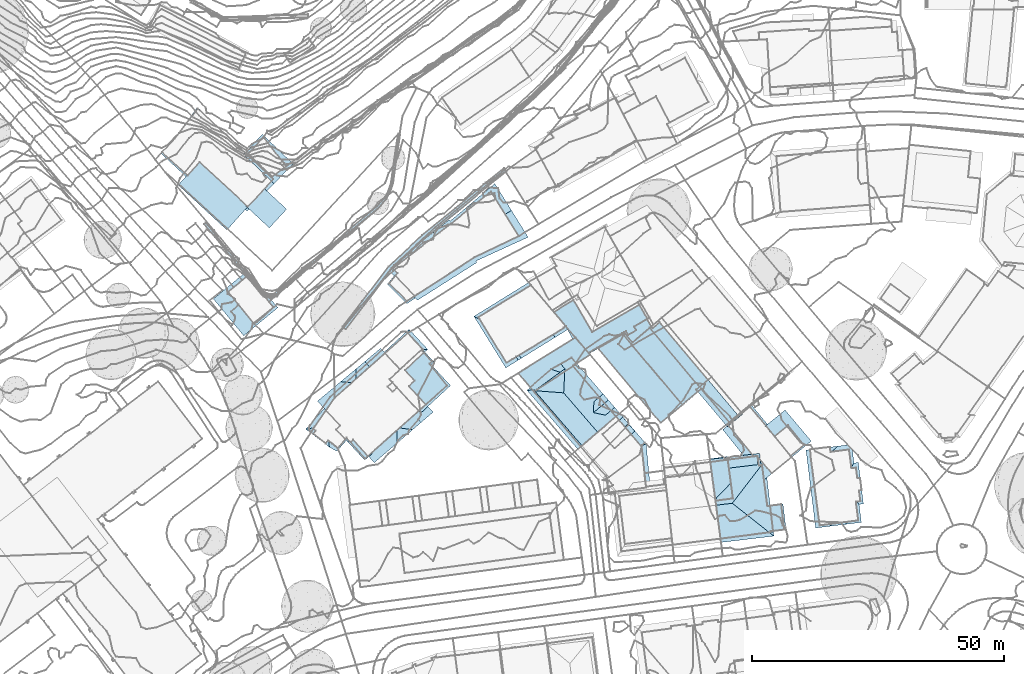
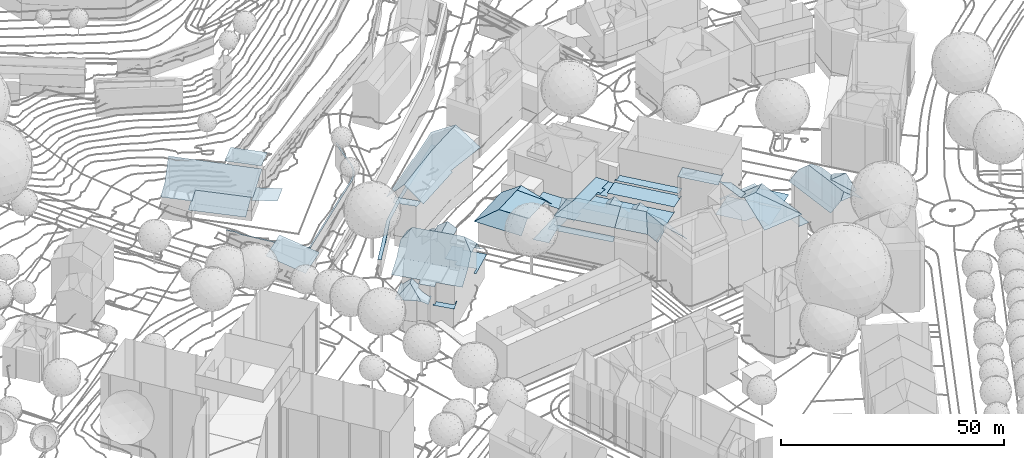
# Not in any storey, part 80 of 477: 27 roofs.
"""IFC4 building model written with IfcOpenShell, lengths in metres."""

from ifc_helpers import new_model, si_unit, frame, origin_with_axes, place, context, subcontext, project, spatial, polygons, element, save


model = new_model("IFC4")

# Units and contexts
model_context = context("Model", 3, precision=1e-05, world=origin_with_axes())
body_context = subcontext(model_context, "Body", "Model", "MODEL_VIEW")
ifc_project = project(units=[si_unit("AREAUNIT", "SQUARE_METRE"), si_unit("LENGTHUNIT", "METRE")], contexts=[model_context])

# Sites, building
site_1_placement = place(None, origin_with_axes())
site_1 = spatial("IfcSite", under=ifc_project, at=site_1_placement, Name="Topoexport Site")
site_2_placement = place(site_1_placement, origin_with_axes())
site_2 = spatial("IfcSite", under=site_1, at=site_2_placement, Name="TPX_BUILDINGS")
building_1_placement = place(site_2_placement, frame((211.8297320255, 101.9383160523, 526.7541), z_axis=(0.0, 0.0, 1.0), x_axis=(1.0, 0.0, 0.0)))
building_1 = spatial("IfcBuilding", under=site_2, at=building_1_placement, Name="Building 18", CompositionType="ELEMENT")

# Roofs
roof_1_placement = place(None, frame((211.8297320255, 101.9383160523, 526.7541), z_axis=(0.0, 0.0, 1.0), x_axis=(1.0, 0.0, 0.0)))
element("IfcRoof", 1, at=roof_1_placement, inside=building_1, Name="Roof 69", context=body_context, shape_type="Tessellation", body=[
    polygons([(230.6209999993, 142.6094000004, -15.6225), (224.5700000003, 149.4979999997, -15.5485), (224.887000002, 149.7558000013, -15.5485), (230.3049999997, 142.3515000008, -15.6225), (223.8020000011, 150.4354999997, -15.1775), (224.1130000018, 150.6992000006, -15.1775), (222.6460000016, 152.3729999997, -15.1775), (222.3390000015, 152.1055000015, -15.1775), (232.3399999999, 140.2138000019, -15.7305), (230.9900000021, 141.8486000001, -15.6525), (230.8289999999, 141.7168000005, -15.6525), (234.381000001, 138.0487999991, -15.8445), (234.2780000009, 137.8662, -15.8445), (235.6790000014, 137.8515000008, -15.6965), (235.8020000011, 137.4208999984, -15.6965), (251.1520000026, 150.495099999, -15.6225), (250.8890000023, 150.807599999, -15.6225), (234.4810000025, 137.620099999, -15.8165), (257.0040000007, 155.3935000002, -15.6225), (256.7200000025, 155.6875, -15.6225), (258.4030000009, 156.9530999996, -15.6225), (258.0700000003, 157.1942999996, -15.6225), (259.2550000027, 158.433600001, -15.6225), (259.8830000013, 160.2391999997, -15.6225), (258.882000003, 158.6044999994, -15.6225), (259.4840000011, 160.3339999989, -15.6225), (259.9620000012, 163.9316000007, -15.6225), (260.3660000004, 163.8740000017, -15.6225), (260.8489999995, 169.8828000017, -15.5485), (261.2530000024, 169.8222000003, -15.5485)], [[[3, 2, 1]], [[4, 1, 2]], [[3, 5, 2]], [[5, 3, 6]], [[5, 6, 7]], [[7, 8, 5]], [[1, 10, 9]], [[11, 10, 4]], [[4, 10, 1]], [[13, 12, 1]], [[13, 1, 9]], [[12, 15, 14]], [[14, 15, 16]], [[16, 17, 14]], [[12, 13, 15]], [[18, 15, 13]], [[20, 16, 19]], [[20, 19, 21]], [[20, 17, 16]], [[22, 20, 21]], [[21, 23, 22]], [[25, 23, 24]], [[23, 25, 22]], [[25, 24, 26]], [[26, 28, 27]], [[28, 26, 24]], [[30, 29, 28]], [[27, 28, 29]]]),
])
roof_2_placement = place(None, frame((211.8297320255, 101.9383160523, 526.7541), z_axis=(0.0, 0.0, 1.0), x_axis=(1.0, 0.0, 0.0)))
element("IfcRoof", 2, at=roof_2_placement, inside=building_1, Name="Roof 72", context=body_context, shape_type="Tessellation", body=[
    polygons([(254.3800000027, 136.2890000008, -20.4351), (250.4350000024, 131.2080000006, -20.3871), (249.8320000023, 131.75, -20.3871), (253.7380000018, 136.7811999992, -20.4351), (258.9550000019, 143.6981999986, -20.2511), (259.5580000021, 143.1543000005, -20.2511), (266.2190000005, 149.3291000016, -20.0661), (265.688000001, 149.9393999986, -20.0661), (272.2770000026, 155.3280999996, -19.7901), (272.7919999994, 154.7050999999, -19.7901), (278.2740000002, 160.3418000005, -19.5142), (278.7850000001, 159.7148000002, -19.5142), (281.9240000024, 163.2490000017, -19.3302), (282.4279999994, 162.6162, -19.3302), (259.5579000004, 143.1543999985, -20.4526), (254.4450000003, 136.375, -20.6331), (254.3801000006, 136.2890000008, -20.6353)], [[[3, 2, 1]], [[1, 4, 3]], [[1, 5, 4]], [[5, 1, 6]], [[7, 5, 6]], [[5, 7, 8]], [[10, 9, 7]], [[8, 7, 9]], [[12, 11, 9]], [[9, 10, 12]], [[14, 13, 12]], [[11, 12, 13]], [[17, 16, 15]]]),
])

# Building
building_2_placement = place(site_2_placement, frame((498.6247320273, 242.5555160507, 500.7935), z_axis=(0.0, 0.0, 1.0), x_axis=(1.0, 0.0, 0.0)))
building_2 = spatial("IfcBuilding", under=site_2, at=building_2_placement, Name="Building 78", CompositionType="ELEMENT")

# Roof
roof_3_placement = place(None, frame((498.6247320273, 242.5555160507, 500.7935), z_axis=(0.0, 0.0, 1.0), x_axis=(1.0, 0.0, 0.0)))
element("IfcRoof", 3, at=roof_3_placement, inside=building_2, Name="Roof 0", context=body_context, shape_type="Tessellation", body=[
    polygons([(23.6420000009, -7.3046999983, 4.7325), (20.9739999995, -8.8408999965, 4.7325), (22.0170000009, -4.4814999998, 4.7325), (19.3709999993, -9.7636999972, 4.7325), (18.6279999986, -10.191399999, 4.7325), (12.6730000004, -9.9433999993, 4.7325), (11.1909999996, -14.7050999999, 4.7325), (18.7349999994, -10.3310999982, 4.7325), (19.8000000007, -10.5088, 4.7325), (21.4030000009, -9.5859999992, 4.7325), (7.4419999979, -8.7841999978, 4.7325), (8.938000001, -3.5546999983, 4.7325), (9.0150000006, -11.8085999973, 4.7325), (7.4820000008, -9.0146999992, 4.7325), (7.3389999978, -8.8456999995, 4.7325), (5.0500000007, -5.9618999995, 4.7325)], [[[3, 2, 1]], [[2, 3, 4]], [[3, 5, 4]], [[6, 5, 3]], [[8, 5, 7]], [[2, 4, 9]], [[2, 9, 10]], [[6, 12, 11]], [[7, 6, 13]], [[6, 7, 5]], [[14, 6, 11]], [[14, 13, 6]], [[11, 15, 14]], [[11, 12, 16]]]),
])

# Building
building_3_placement = place(site_2_placement, frame((509.0277320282, 209.8641160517, 500.1695), z_axis=(0.0, 0.0, 1.0), x_axis=(1.0, 0.0, 0.0)))
building_3 = spatial("IfcBuilding", under=site_2, at=building_3_placement, Name="Building 79", CompositionType="ELEMENT")

# Roof
roof_4_placement = place(None, frame((509.0277320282, 209.8641160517, 500.1695), z_axis=(0.0, 0.0, 1.0), x_axis=(1.0, 0.0, 0.0)))
element("IfcRoof", 4, at=roof_4_placement, inside=building_3, Name="Roof 1", context=body_context, shape_type="Tessellation", body=[
    polygons([(7.5979999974, 5.2714000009, 12.3828), (9.4129999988, 4.5780999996, 13.5887), (6.5099999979, 4.3486000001, 12.3828), (6.6549999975, 2.2382000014, 13.5887), (8.310999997, 5.8769000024, 12.3828), (8.9100000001, 1.5654000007, 12.3828), (9.9829999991, 2.4755000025, 12.3828), (10.6889999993, 3.0742000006, 12.3828), (7.2619999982, -1.7364000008, 15.6195), (0.2079999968, 0.1787, 12.4798), (3.3189999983, 2.8379000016, 15.6195), (5.3200000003, -5.7509999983, 12.4798), (11.9649999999, 0.1523000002, 11.0599), (9.9829999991, 2.4755000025, 11.045), (12.9419999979, 0.5371000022, 10.118), (7.7170000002, 6.5976000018, 10.1181), (9.0709999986, 1.7010999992, 12.1828), (10.492999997, -0.4267999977, 12.4798), (6.993999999, 5.9794999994, 11.022), (7.5979999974, 5.2714000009, 11.027), (6.6710000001, 4.4853000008, 12.1829), (11.300999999, -9.0976999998, 12.4798), (7.9239999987, -8.8359999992, 15.6195), (7.9769999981, -9.4072999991, 15.6195), (13.818, -8.8623000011, 10.118), (5.680999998, -9.621100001, 12.4798), (5.6569999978, -9.3594000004, 12.4798), (5.6359999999, -9.1367999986, 12.4798)], [[[3, 2, 1]], [[2, 3, 4]], [[2, 5, 1]], [[4, 6, 2]], [[2, 6, 7]], [[7, 8, 2]], [[11, 10, 9]], [[12, 9, 10]], [[15, 14, 13]], [[14, 15, 16]], [[13, 14, 17]], [[4, 9, 18]], [[17, 6, 18]], [[18, 13, 17]], [[4, 18, 6]], [[20, 16, 19]], [[16, 20, 14]], [[20, 19, 21]], [[3, 11, 4]], [[3, 21, 19]], [[19, 11, 3]], [[4, 11, 9]], [[23, 22, 9]], [[23, 24, 22]], [[22, 25, 18]], [[18, 25, 13]], [[9, 22, 18]], [[13, 25, 15]], [[24, 27, 26]], [[27, 24, 23]], [[23, 9, 12]], [[12, 28, 23]], [[23, 28, 27]]]),
])

# Building
building_4_placement = place(site_2_placement, frame((512.3577320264, 229.5457160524, 499.1847), z_axis=(0.0, 0.0, 1.0), x_axis=(1.0, 0.0, 0.0)))
building_4 = spatial("IfcBuilding", under=site_2, at=building_4_placement, Name="Building 80", CompositionType="ELEMENT")

# Roofs
roof_5_placement = place(None, frame((512.3577320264, 229.5457160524, 499.1847), z_axis=(0.0, 0.0, 1.0), x_axis=(1.0, 0.0, 0.0)))
element("IfcRoof", 5, at=roof_5_placement, inside=building_4, Name="Roof 1", context=body_context, shape_type="Tessellation", body=[
    polygons([(27.9970000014, -13.6240000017, 13.3336), (28.8060000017, -13.191399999, 13.4926), (25.751000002, -15.7626999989, 12.7847), (28.6840000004, -13.0458999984, 13.4926), (19.8770000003, -8.7890999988, 12.7847), (21.9180000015, -6.4072000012, 13.3336), (19.5500000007, -8.4013999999, 12.7847)], [[[3, 2, 1]], [[1, 2, 4]], [[1, 6, 5]], [[7, 5, 6]], [[1, 5, 3]]]),
])
roof_6_placement = place(None, frame((512.3577320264, 229.5457160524, 499.1847), z_axis=(0.0, 0.0, 1.0), x_axis=(1.0, 0.0, 0.0)))
element("IfcRoof", 6, at=roof_6_placement, inside=building_4, Name="Roof 3", context=body_context, shape_type="Tessellation", body=[
    polygons([(4.8949999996, 2.8183999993, 6.3413), (6.0670000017, 2.5009999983, 6.3413), (6.6160000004, 0.7646999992, 6.3413), (7.6700000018, 3.4237999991, 6.3413), (5.6380000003, 3.246100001, 6.3413), (9.8399999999, 5.6649999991, 6.3413), (10.693, 4.2001999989, 6.3413), (7.2410000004, 4.1689999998, 6.3413)], [[[3, 2, 1]], [[2, 3, 4]], [[5, 1, 2]], [[4, 7, 6]], [[7, 4, 3]], [[6, 8, 4]]]),
])
roof_7_placement = place(None, frame((512.3577320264, 229.5457160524, 499.1847), z_axis=(0.0, 0.0, 1.0), x_axis=(1.0, 0.0, 0.0)))
element("IfcRoof", 7, at=roof_7_placement, inside=building_4, Name="Roof 5", context=body_context, shape_type="Tessellation", body=[
    polygons([(16.8920000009, -11.4365000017, 7.2982), (19.8770000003, -8.7890999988, 7.1012), (20.6429999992, -8.2763999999, 7.0562), (20.5670000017, -8.2060000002, 7.0572), (16.8289999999, -11.3632999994, 7.2982), (19.5500000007, -8.4013999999, 7.1012), (6.6150000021, 0.7637000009, 7.2982), (10.3460000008, 3.9072000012, 7.0583), (20.2410000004, -7.8192999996, 7.0572)], [[[3, 2, 1]], [[2, 3, 4]], [[5, 1, 2]], [[2, 6, 5]], [[6, 8, 7]], [[8, 6, 9]], [[6, 7, 5]]]),
])
roof_8_placement = place(None, frame((512.3577320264, 229.5457160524, 499.1847), z_axis=(0.0, 0.0, 1.0), x_axis=(1.0, 0.0, 0.0)))
element("IfcRoof", 8, at=roof_8_placement, inside=building_4, Name="Roof 7", context=body_context, shape_type="Tessellation", body=[
    polygons([(10.693, 4.1992000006, 7.5842), (10.9149999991, 3.8183999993, 7.5842), (10.3460000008, 3.9072000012, 7.5842), (20.2309999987, -7.8271000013, 7.5842), (21.9180000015, -6.4072000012, 7.5842), (12.3099999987, 5.0009999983, 7.5842)], [[[3, 2, 1]], [[2, 3, 4]], [[6, 2, 5]], [[5, 2, 4]]]),
])
roof_9_placement = place(None, frame((512.3577320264, 229.5457160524, 499.1847), z_axis=(0.0, 0.0, 1.0), x_axis=(1.0, 0.0, 0.0)))
element("IfcRoof", 9, at=roof_9_placement, inside=building_4, Name="Roof 8", context=body_context, shape_type="Tessellation", body=[
    polygons([(5.2470000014, 3.0214999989, 5.7954), (4.8949999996, 2.8183999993, 5.7954), (5.0419999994, 3.2637000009, 5.7954), (-0.2010000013, 0.2402000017, 5.7954), (12.6079999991, -15.0449000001, 5.7954), (17.2030000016, -11.1748000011, 5.7954), (16.8289999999, -11.3632999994, 5.7954), (17.1400000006, -11.0995999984, 5.7954)], [[[3, 2, 1]], [[2, 3, 4]], [[4, 5, 2]], [[8, 7, 6]], [[6, 7, 5]], [[7, 2, 5]]]),
])

# Building
building_5_placement = place(site_2_placement, frame((547.5217320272, 211.8914160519, 499.8985), z_axis=(0.0, 0.0, 1.0), x_axis=(1.0, 0.0, 0.0)))
building_5 = spatial("IfcBuilding", under=site_2, at=building_5_placement, Name="Building 83", CompositionType="ELEMENT")

# Roof
roof_10_placement = place(None, frame((547.5217320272, 211.8914160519, 499.8985), z_axis=(0.0, 0.0, 1.0), x_axis=(1.0, 0.0, 0.0)))
element("IfcRoof", 10, at=roof_10_placement, inside=building_5, Name="Roof 0", context=body_context, shape_type="Tessellation", body=[
    polygons([(3.2280000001, -4.2313999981, 5.3795), (-1.9210000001, 2.0518000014, 5.3795), (2.0429999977, 5.2529000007, 5.3795), (7.245000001, -0.927699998, 5.3795)], [[[3, 2, 1]], [[1, 4, 3]]]),
])

# Building
building_6_placement = place(site_2_placement, frame((534.7547320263, 206.7918160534, 499.1526), z_axis=(0.0, 0.0, 1.0), x_axis=(1.0, 0.0, 0.0)))
building_6 = spatial("IfcBuilding", under=site_2, at=building_6_placement, Name="Building 84", CompositionType="ELEMENT")

# Roofs
roof_11_placement = place(None, frame((534.7547320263, 206.7918160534, 499.1526), z_axis=(0.0, 0.0, 1.0), x_axis=(1.0, 0.0, 0.0)))
element("IfcRoof", 11, at=roof_11_placement, inside=building_6, Name="Roof 0", context=body_context, shape_type="Tessellation", body=[
    polygons([(9.5300000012, 0.1006000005, 14.2056), (9.3029999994, 0.0742000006, 14.2056), (9.7470000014, 1.745099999, 14.2056), (3.4640000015, 0.4452999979, 14.2056), (9.6669999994, -0.7021000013, 14.2056), (10.0350000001, -0.6553000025, 14.2056), (0.0, 0.0, 14.2056), (-0.0760000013, 0.5683999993, 14.2056), (9.3709999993, -0.4979999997, 14.2056), (3.6799999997, -1.1797000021, 14.2056)], [[[3, 2, 1]], [[2, 3, 4]], [[6, 1, 5]], [[1, 6, 3]], [[4, 8, 7]], [[8, 4, 3]], [[10, 9, 2]], [[10, 2, 4]]]),
])
roof_12_placement = place(None, frame((534.7547320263, 206.7918160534, 499.1526), z_axis=(0.0, 0.0, 1.0), x_axis=(1.0, 0.0, 0.0)))
element("IfcRoof", 12, at=roof_12_placement, inside=building_6, Name="Roof 1", context=body_context, shape_type="Tessellation", body=[
    polygons([(11.9780000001, -13.9072000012, 11.0119), (12.4660000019, -13.7118999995, 11.0119), (15.0260000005, -13.5419999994, 11.0119), (14.3940000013, -8.2646000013, 11.0119), (11.9609999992, -13.7773000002, 11.0119), (11.8640000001, -8.6875, 11.0119), (11.3170000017, -8.7578000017, 11.0119), (11.300999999, -8.6357000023, 11.0119)], [[[3, 2, 1]], [[2, 3, 4]], [[2, 5, 1]], [[8, 7, 6]], [[4, 6, 2]], [[8, 6, 4]]]),
])
roof_13_placement = place(None, frame((534.7547320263, 206.7918160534, 499.1526), z_axis=(0.0, 0.0, 1.0), x_axis=(1.0, 0.0, 0.0)))
element("IfcRoof", 13, at=roof_13_placement, inside=building_6, Name="Roof 2", context=body_context, shape_type="Tessellation", body=[
    polygons([(11.6950000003, -13.9932000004, 15.2835), (2.1180000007, -15.9492000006, 14.7565), (2.0240000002, -15.2393000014, 15.2265), (4.3170000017, -8.1719000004, 19.6541), (1.1359999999, -8.5527000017, 19.6541), (12.5839999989, -14.6953000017, 14.7565), (11.8640000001, -8.6875, 14.7565), (10.1030000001, -0.6465000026, 15.2795), (10.7939999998, 0.2529000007, 14.7566), (12.4660000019, -13.7118999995, 14.7565), (0.9750000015, -7.3398000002, 18.8652), (4.069000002, -4.1104000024, 17.0343), (9.3709999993, -0.4979999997, 15.1275), (4.0280000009, -3.8027000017, 16.8344), (9.5300000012, 0.1006000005, 14.7566), (3.6799999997, -1.1797000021, 15.1275), (9.3029999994, 0.0742000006, 14.7566), (3.3740000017, 1.1259999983, 17.0344), (0.0, 0.0, 18.8652), (-0.0899999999, 0.6659999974, 18.8652), (3.4640000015, 0.4452999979, 17.0344)], [[[3, 2, 1]], [[5, 3, 4]], [[3, 1, 4]], [[1, 2, 6]], [[9, 8, 7]], [[7, 8, 4]], [[1, 10, 7]], [[6, 10, 1]], [[1, 7, 4]], [[5, 4, 11]], [[12, 11, 4]], [[14, 12, 13]], [[4, 8, 12]], [[15, 13, 8]], [[13, 16, 14]], [[15, 8, 9]], [[17, 13, 15]], [[13, 12, 8]], [[20, 19, 18]], [[18, 19, 21]], [[19, 12, 21]], [[12, 19, 11]]]),
])

# Building
building_7_placement = place(site_2_placement, frame((538.2627320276, 214.1619160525, 498.9856), z_axis=(0.0, 0.0, 1.0), x_axis=(1.0, 0.0, 0.0)))
building_7 = spatial("IfcBuilding", under=site_2, at=building_7_placement, Name="Building 85", CompositionType="ELEMENT")

# Roof
roof_14_placement = place(None, frame((538.2627320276, 214.1619160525, 498.9856), z_axis=(0.0, 0.0, 1.0), x_axis=(1.0, 0.0, 0.0)))
element("IfcRoof", 14, at=roof_14_placement, inside=building_7, Name="Roof 0", context=body_context, shape_type="Tessellation", body=[
    polygons([(8.699000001, -9.6191000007, 5.6424), (12.4529999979, -6.1552999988, 5.6424), (12.9659999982, -6.1083999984, 5.6424), (5.8339999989, -6.1689000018, 5.6425), (12.7809999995, -5.8847999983, 5.6424), (7.1380000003, -10.9043000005, 5.6424), (6.7639999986, -7.9941000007, 5.6425), (9.2589999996, -2.2705000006, 5.6425), (4.6629999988, 3.9219000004, 5.6425), (9.574000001, -2.0106999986, 5.6425), (-1.0850000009, -0.9131000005, 5.6425), (6.1589999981, -8.0722999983, 5.6425), (3.3719999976, -6.4862999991, 5.6425)], [[[3, 2, 1]], [[1, 2, 4]], [[5, 2, 3]], [[1, 7, 6]], [[8, 4, 2]], [[1, 4, 7]], [[8, 10, 9]], [[4, 8, 11]], [[9, 11, 8]], [[7, 4, 12]], [[4, 11, 13]]]),
])

# Building
building_8_placement = place(site_2_placement, frame((496.6027320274, 224.4773160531, 500.1476), z_axis=(0.0, 0.0, 1.0), x_axis=(1.0, 0.0, 0.0)))
building_8 = spatial("IfcBuilding", under=site_2, at=building_8_placement, Name="Building 86", CompositionType="ELEMENT")

# Roofs
roof_15_placement = place(None, frame((496.6027320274, 224.4773160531, 500.1476), z_axis=(0.0, 0.0, 1.0), x_axis=(1.0, 0.0, 0.0)))
element("IfcRoof", 15, at=roof_15_placement, inside=building_8, Name="Roof 0", context=body_context, shape_type="Tessellation", body=[
    polygons([(10.5979999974, 3.0557000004, 4.9925), (11.2899999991, 7.1376999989, 4.9925), (13.932, 4.0185999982, 4.9925), (6.5099999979, 0.7432000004, 4.9925), (11.5889999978, 1.9052999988, 4.9925), (14.4100000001, 3.6328999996, 4.9925), (14.0299999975, 4.0742999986, 4.9925), (10.8959999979, 1.3594000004, 4.9925), (2.3889999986, -2.8095000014, 4.9925), (-0.129999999, 0.0605999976, 4.9925), (3.0709999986, -3.7041000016, 4.9925), (10.8440000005, 1.4199999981, 4.9925), (3.1209999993, -3.6709000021, 4.9925)], [[[3, 2, 1]], [[1, 2, 4]], [[3, 1, 5]], [[7, 3, 6]], [[6, 3, 5]], [[6, 5, 8]], [[4, 10, 9]], [[9, 10, 11]], [[12, 8, 5]], [[11, 13, 9]], [[4, 2, 10]]]),
])
roof_16_placement = place(None, frame((496.6027320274, 224.4773160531, 500.1476), z_axis=(0.0, 0.0, 1.0), x_axis=(1.0, 0.0, 0.0)))
element("IfcRoof", 16, at=roof_16_placement, inside=building_8, Name="Roof 1", context=body_context, shape_type="Tessellation", body=[
    polygons([(3.2009999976, -3.495099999, 10.131), (12.4250000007, -14.6123000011, 9.936), (2.873999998, -3.3808000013, 10.008), (1.682, -3.4189000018, 9.3461), (11.7960000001, -15.1502999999, 9.346), (3.381000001, -3.3641999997, 10.289), (12.6329999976, -14.4345000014, 10.131), (2.3889999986, -2.8095000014, 9.3461), (6.5099999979, 0.7432000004, 9.3461), (8.248999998, 0.1591999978, 10.7379), (8.9719999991, -3.9209000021, 15.6414), (3.2009999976, -3.495099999, 12.5017), (9.2129999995, 0.8574999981, 12.5017), (12.6329999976, -14.4345000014, 12.5017), (15.743999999, -11.7752999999, 15.6414), (16.0869999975, -4.7265000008, 12.4047), (17.8530000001, -5.3368999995, 13.8246), (14.9749999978, -5.6699000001, 12.4047), (14.8849999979, -7.8535000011, 13.8246), (16.813000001, -4.1103000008, 12.4047), (17.2879999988, -8.3535000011, 12.4047), (18.3859999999, -7.4228000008, 12.4047), (19.1050000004, -6.8125, 12.4047), (18.3859999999, -7.4228000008, 11.0359), (20.1420000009, -8.0155999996, 10.14), (19.4189999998, -8.633700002, 11.0439), (16.0869999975, -4.7265000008, 11.0179), (12.1689999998, 1.2324999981, 10.14), (17.449000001, -8.2177000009, 12.2048), (10.5979999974, 3.0557000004, 10.14), (15.1349999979, -5.5331999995, 12.2048), (8.3939999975, 1.808600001, 12.5018), (9.1039999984, 0.7784000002, 12.3018)], [[[3, 2, 1]], [[5, 3, 4]], [[3, 1, 6]], [[7, 1, 2]], [[2, 3, 5]], [[4, 3, 8]], [[8, 3, 9]], [[10, 9, 3]], [[10, 3, 6]], [[13, 12, 11]], [[11, 12, 14]], [[14, 15, 11]], [[18, 17, 16]], [[17, 18, 19]], [[17, 20, 16]], [[19, 21, 17]], [[17, 21, 22]], [[22, 23, 17]], [[26, 25, 24]], [[27, 24, 25]], [[25, 28, 27]], [[26, 24, 29]], [[26, 21, 15]], [[21, 26, 29]], [[21, 19, 15]], [[15, 19, 11]], [[28, 30, 13]], [[18, 31, 13]], [[13, 11, 18]], [[13, 31, 28]], [[30, 32, 13]], [[18, 11, 19]], [[28, 31, 27]], [[13, 32, 33]], [[33, 9, 10]], [[9, 33, 32]]]),
])

# Building
building_9_placement = place(site_2_placement, frame((488.6637320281, 235.6004160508, 500.5996), z_axis=(0.0, 0.0, 1.0), x_axis=(1.0, 0.0, 0.0)))
building_9 = spatial("IfcBuilding", under=site_2, at=building_9_placement, Name="Building 87", CompositionType="ELEMENT")

# Roof
roof_17_placement = place(None, frame((488.6637320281, 235.6004160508, 500.5996), z_axis=(0.0, 0.0, 1.0), x_axis=(1.0, 0.0, 0.0)))
element("IfcRoof", 17, at=roof_17_placement, inside=building_9, Name="Roof 0", context=body_context, shape_type="Tessellation", body=[
    polygons([(7.8859999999, -8.5556999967, 8.8011), (4.0539999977, -2.3632999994, 8.8011), (8.0629999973, -7.5839999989, 8.3581), (8.5119999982, -8.1679999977, 8.3081), (11.368999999, 2.1621000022, 8.8011), (14.8599999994, -3.4804999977, 8.3521), (15.1999999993, -4.0292999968, 8.3081), (5.4169999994, -10.0829999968, 5.7694), (0.2759999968, -0.4463, 6.4983), (-0.9200000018, 0.1592000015, 5.7694), (9.9959999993, 6.9141000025, 5.7694), (10.4849999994, 6.3359000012, 6.2463), (12.2759999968, 4.2226999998, 7.9902), (13.1089999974, 3.2393000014, 8.8011), (17.868999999, -2.378899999, 5.3764), (17.4029999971, -1.8290999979, 5.7114)], [[[3, 2, 1]], [[3, 1, 4]], [[6, 5, 3]], [[7, 6, 4]], [[6, 3, 4]], [[3, 5, 2]], [[9, 8, 2]], [[8, 9, 10]], [[8, 1, 2]], [[12, 11, 9]], [[5, 14, 13]], [[13, 12, 9]], [[2, 13, 9]], [[5, 13, 2]], [[9, 11, 10]], [[15, 6, 7]], [[6, 15, 5]], [[14, 5, 16]], [[16, 5, 15]]]),
])

# Building
building_10_placement = place(site_2_placement, frame((554.542732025, 209.2947160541, 500.1665), z_axis=(0.0, 0.0, 1.0), x_axis=(1.0, 0.0, 0.0)))
building_10 = spatial("IfcBuilding", under=site_2, at=building_10_placement, Name="Building 88", CompositionType="ELEMENT")

# Roof
roof_18_placement = place(None, frame((554.542732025, 209.2947160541, 500.1665), z_axis=(0.0, 0.0, 1.0), x_axis=(1.0, 0.0, 0.0)))
element("IfcRoof", 18, at=roof_18_placement, inside=building_10, Name="Roof 1", context=body_context, shape_type="Tessellation", body=[
    polygons([(4.2050000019, -0.4873000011, 13.1537), (5.6150000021, -0.3017000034, 12.2188), (5.8100000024, -7.3300000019, 12.6567), (5.4940000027, 0.6767999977, 12.2188), (6.3790000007, -6.5009000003, 12.2188), (5.4790000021, -13.7890000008, 13.3927), (3.875, -0.7851000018, 13.3927), (6.768000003, -14.4746000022, 12.6067), (6.5590000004, -7.9521000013, 12.2188), (7.4050000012, -14.8144000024, 12.2188), (3.8590000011, -15.2509000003, 12.2188), (4.376000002, -14.7842000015, 12.5937), (8.2609999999, 1.0185999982, 10.173), (8.2140000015, -3.4931000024, 10.6129), (8.7160000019, -2.6699000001, 10.173), (1.949000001, 0.2402999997, 12.2188), (3.8100000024, -14.8584000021, 12.2188), (3.9600000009, 0.4882999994, 12.2188), (0.0, 0.0, 10.7789), (-0.8199999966, -0.1006000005, 10.173), (1.0910000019, -15.5927000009, 10.173), (10.0930000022, -6.8008000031, 12.6567), (10.251000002, -8.0830000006, 11.8598), (9.1740000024, -10.3828000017, 10.5329), (10.5860000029, -10.7959000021, 10.173), (9.7320000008, -10.9013000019, 10.173), (9.9539999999, -5.6728000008, 11.9958), (9.5700000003, -2.5654000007, 10.173), (10.1730000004, -14.4726000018, 10.173)], [[[3, 2, 1]], [[1, 2, 4]], [[5, 2, 3]], [[1, 7, 6]], [[3, 6, 8]], [[6, 3, 1]], [[3, 8, 9]], [[8, 10, 9]], [[12, 11, 10]], [[8, 6, 12]], [[10, 8, 12]], [[13, 4, 2]], [[13, 2, 14]], [[14, 15, 13]], [[5, 14, 2]], [[7, 12, 6]], [[12, 7, 16]], [[12, 17, 11]], [[17, 12, 16]], [[18, 16, 7]], [[1, 4, 18]], [[1, 18, 7]], [[19, 17, 16]], [[21, 19, 20]], [[17, 21, 11]], [[21, 17, 19]], [[23, 22, 9]], [[25, 23, 24]], [[3, 9, 22]], [[26, 25, 24]], [[24, 23, 9]], [[5, 3, 22]], [[14, 5, 27]], [[28, 14, 27]], [[15, 14, 28]], [[27, 5, 22]], [[24, 9, 10]], [[26, 24, 10]], [[10, 29, 26]]]),
])

# Building
building_11_placement = place(site_2_placement, frame((455.8447320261, 213.3826160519, 501.6645), z_axis=(0.0, 0.0, 1.0), x_axis=(1.0, 0.0, 0.0)))
building_11 = spatial("IfcBuilding", under=site_2, at=building_11_placement, Name="Building 105", CompositionType="ELEMENT")

# Roofs
roof_19_placement = place(None, frame((455.8447320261, 213.3826160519, 501.6645), z_axis=(0.0, 0.0, 1.0), x_axis=(1.0, 0.0, 0.0)))
element("IfcRoof", 19, at=roof_19_placement, inside=building_11, Name="Roof 0", context=body_context, shape_type="Tessellation", body=[
    polygons([(7.1240000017, -2.3202999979, 5.8364), (7.4279999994, -2.6581999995, 5.8344), (6.8489999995, -2.5742000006, 5.6944), (10.194000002, -6.192400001, 5.6944), (7.943, -2.1805999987, 6.1013), (10.8940000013, -5.3720999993, 6.1013), (11.6970000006, -4.8896000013, 6.4503), (11.5789999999, -4.7617000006, 6.4503), (11.5800000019, -4.7626999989, 6.4503)], [[[3, 2, 1]], [[2, 3, 4]], [[2, 6, 5]], [[6, 4, 7]], [[4, 6, 2]], [[6, 9, 8]], [[9, 6, 7]]]),
])
roof_20_placement = place(None, frame((455.8447320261, 213.3826160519, 501.6645), z_axis=(0.0, 0.0, 1.0), x_axis=(1.0, 0.0, 0.0)))
element("IfcRoof", 20, at=roof_20_placement, inside=building_11, Name="Roof 1", context=body_context, shape_type="Tessellation", body=[
    polygons([(22.0179999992, 15.1640999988, 5.7334), (21.6680000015, 15.5527999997, 5.7334), (21.7829999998, 15.6572000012, 5.7334), (23.9350000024, 13.3291000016, 5.7334), (23.376000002, 12.8125, 5.7334), (20.1680000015, 9.5879000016, 5.7334), (27.25, 8.6220999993, 5.7334), (18.2410000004, 11.6709000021, 5.7334), (22.4000000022, 4.8555000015, 5.7334), (19.012000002, 8.5196000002, 5.7334), (21.3480000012, 3.1640999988, 5.7334), (20.9640000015, 3.5791000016, 5.7334)], [[[3, 2, 1]], [[3, 1, 4]], [[5, 4, 1]], [[7, 5, 6]], [[8, 5, 1]], [[8, 6, 5]], [[6, 10, 9]], [[9, 12, 11]], [[9, 11, 7]], [[6, 9, 7]]]),
])
roof_21_placement = place(None, frame((455.8447320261, 213.3826160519, 501.6645), z_axis=(0.0, 0.0, 1.0), x_axis=(1.0, 0.0, 0.0)))
element("IfcRoof", 21, at=roof_21_placement, inside=building_11, Name="Roof 2", context=body_context, shape_type="Tessellation", body=[
    polygons([(13.0930000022, 9.2529000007, 14.5735), (8.4019999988, 9.8280999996, 18.7171), (8.5140000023, 11.9706999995, 16.6313), (13.7970000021, 6.7939999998, 16.1374), (8.3680000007, 9.1719000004, 19.3551), (11.2019999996, 12.316399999, 13.6366), (10.2100000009, 13.3887000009, 13.6366), (13.6000000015, 9.7217000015, 13.6366), (13.2019999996, 9.3535000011, 14.3736), (17.175999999, 0.2109999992, 18.8351), (16.5700000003, 0.3018000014, 19.3551), (16.186999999, 5.9072000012, 14.5735), (19.7129999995, -0.1678999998, 16.6563), (21.4030000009, 1.2842000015, 13.6366), (16.2960000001, 6.0069000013, 14.3735), (16.694000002, 6.376000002, 13.6366), (5.4299999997, 9.3916000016, 16.8303), (4.6510000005, 6.4932000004, 13.6366), (3.4790000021, 7.759800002, 13.6366), (7.7190000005, 9.2206999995, 18.7981), (16.5760000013, -0.3222000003, 18.8281), (13.4890000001, -3.0643999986, 13.6366), (16.6000000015, -2.8427999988, 16.6973), (14.7520000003, -4.4305999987, 13.6366), (13.376000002, 16.0361000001, 11.3569), (14.2829999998, 15.0547000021, 11.3569), (15.9030000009, 13.3027999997, 11.3568), (16.6270000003, 12.5205000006, 11.3568), (22.4000000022, 4.8555000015, 11.5318), (23.7989999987, 3.3427999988, 11.5318), (19.012000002, 8.5195000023, 11.5318), (7.4279999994, -2.6581999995, 10.9589), (7.1579999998, -2.9081999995, 10.8069), (6.3650000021, -2.0507999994, 10.8069), (7.943, -2.1805999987, 11.2498), (5.3770000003, 0.5938000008, 11.2499), (4.5920000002, -0.1327999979, 10.8069), (12.1170000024, -6.6952999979, 11.2498), (10.8940000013, -5.3720999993, 11.2498), (2.5340000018, 3.6689999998, 11.2499), (0.813000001, 5.5302999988, 11.2499), (4.0590000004, 2.0196000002, 11.2499), (18.6240000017, 11.2569000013, 16.1374), (20.1680000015, 9.5879000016, 14.5735), (17.074000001, 12.9345999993, 14.5735), (18.9400000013, 18.938500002, 9.316), (22.7210000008, 15.8145000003, 8.7201), (21.7329999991, 15.8330000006, 9.368), (18.7030000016, 15.8916000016, 11.3568), (19.0089999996, 19.8280999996, 8.7201), (17.074000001, 12.9345999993, 10.3479), (16.6270000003, 12.5205000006, 10.3479), (16.0470000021, 13.1484999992, 11.1569), (22.0179999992, 15.1640999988, 8.7201), (18.2410000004, 11.6709000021, 8.7201), (14.2829999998, 15.0547000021, 9.0111), (12.1739999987, 13.5069000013, 8.7201), (15.7650000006, 13.4521999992, 11.1569), (12.3390000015, 13.3291000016, 8.9591), (6.3650000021, -2.0507999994, 7.9192), (6.6119999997, -1.7509999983, 7.9282), (6.824000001, -1.9873000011, 7.7572), (4.6409999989, -4.4287, 7.7572), (3.1730000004, -3.6015000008, 8.6451), (5.4479999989, -1.058600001, 8.6451), (3.0830000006, -2.4393999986, 9.356), (-1.5219999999, -0.0293000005, 8.6451), (0.1500000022, 0.2353999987, 9.643), (2.8430000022, 0.6592000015, 11.2499), (4.5920000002, -0.1327999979, 9.704), (4.2210000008, 1.8438000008, 11.0499), (5.3770000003, 0.5938000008, 9.619), (2.5340000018, 3.6689999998, 9.1651), (2.7679999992, 4.7686000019, 8.6451), (3.0720000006, 4.4404000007, 9.0601), (3.9129999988, 2.1768000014, 11.0499)], [[[3, 2, 1]], [[2, 4, 1]], [[4, 2, 5]], [[3, 1, 6]], [[7, 3, 6]], [[9, 8, 6]], [[1, 9, 6]], [[4, 11, 10]], [[11, 4, 5]], [[4, 10, 12]], [[12, 10, 13]], [[15, 12, 14]], [[15, 14, 16]], [[12, 13, 14]], [[19, 18, 17]], [[17, 21, 20]], [[5, 20, 11]], [[22, 17, 18]], [[22, 24, 23]], [[21, 11, 20]], [[17, 23, 21]], [[17, 22, 23]], [[7, 6, 25]], [[25, 6, 26]], [[8, 28, 27]], [[26, 6, 27]], [[27, 6, 8]], [[30, 29, 14]], [[14, 31, 16]], [[31, 14, 29]], [[21, 23, 10]], [[10, 11, 21]], [[13, 10, 23]], [[34, 33, 32]], [[36, 32, 35]], [[32, 37, 34]], [[37, 32, 36]], [[24, 22, 38]], [[39, 38, 22]], [[35, 39, 22]], [[22, 36, 35]], [[41, 40, 18]], [[18, 40, 42]], [[41, 18, 19]], [[42, 36, 18]], [[18, 36, 22]], [[44, 43, 12]], [[4, 12, 43]], [[43, 45, 1]], [[1, 4, 43]], [[48, 47, 46]], [[46, 49, 48]], [[50, 46, 47]], [[53, 52, 51]], [[49, 27, 53]], [[54, 47, 48]], [[51, 48, 49]], [[51, 55, 48]], [[51, 49, 53]], [[48, 55, 54]], [[50, 56, 46]], [[56, 50, 57]], [[58, 49, 46]], [[46, 56, 58]], [[58, 27, 49]], [[59, 56, 57]], [[62, 61, 60]], [[60, 63, 62]], [[63, 60, 64]], [[64, 60, 65]], [[68, 67, 66]], [[68, 66, 69]], [[66, 67, 64]], [[70, 69, 66]], [[66, 64, 65]], [[71, 42, 69]], [[71, 70, 72]], [[71, 69, 70]], [[65, 70, 66]], [[75, 74, 73]], [[76, 73, 68]], [[74, 67, 73]], [[69, 76, 68]], [[42, 76, 69]], [[68, 73, 67]], [[2, 3, 17]], [[2, 20, 5]], [[20, 2, 17]]]),
])

# Building
building_12_placement = place(site_2_placement, frame((438.9327320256, 240.6023160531, 504.1533), z_axis=(0.0, 0.0, 1.0), x_axis=(1.0, 0.0, 0.0)))
building_12 = spatial("IfcBuilding", under=site_2, at=building_12_placement, Name="Building 106", CompositionType="ELEMENT")

# Roof
roof_22_placement = place(None, frame((438.9327320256, 240.6023160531, 504.1533), z_axis=(0.0, 0.0, 1.0), x_axis=(1.0, 0.0, 0.0)))
element("IfcRoof", 22, at=roof_22_placement, inside=building_12, Name="Roof 0", context=body_context, shape_type="Tessellation", body=[
    polygons([(3.0810000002, -8.7138000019, 6.3353), (-2.9690000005, -1.3662, 8.7861), (3.8020000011, 4.2080999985, 8.7861), (9.8520000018, -3.1385999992, 6.3353)], [[[3, 2, 1]], [[1, 4, 3]]]),
])

# Building
building_13_placement = place(site_2_placement, frame((425.7767320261, 268.3191160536, 508.9989), z_axis=(0.0, 0.0, 1.0), x_axis=(1.0, 0.0, 0.0)))
building_13 = spatial("IfcBuilding", under=site_2, at=building_13_placement, Name="Building 107", CompositionType="ELEMENT")

# Roofs
roof_23_placement = place(None, frame((425.7767320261, 268.3191160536, 508.9989), z_axis=(0.0, 0.0, 1.0), x_axis=(1.0, 0.0, 0.0)))
element("IfcRoof", 23, at=roof_23_placement, inside=building_13, Name="Roof 0", context=body_context, shape_type="Tessellation", body=[
    polygons([(17.0710000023, -10.821200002, 5.8023), (16.6319999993, -10.6552000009, 5.7554), (16.751000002, -10.5263000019, 5.7554), (21.324000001, -14.9873000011, 6.4483), (20.381000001, -7.2314000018, 5.8023), (24.756000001, -11.2695000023, 6.4483)], [[[3, 2, 1]], [[5, 1, 4]], [[4, 1, 2]], [[6, 5, 4]]]),
])
roof_24_placement = place(None, frame((425.7767320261, 268.3191160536, 508.9989), z_axis=(0.0, 0.0, 1.0), x_axis=(1.0, 0.0, 0.0)))
element("IfcRoof", 24, at=roof_24_placement, inside=building_13, Name="Roof 1", context=body_context, shape_type="Tessellation", body=[
    polygons([(22.693, -5.7363000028, 9.202), (16.9220000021, -11.6611000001, 6.9932), (7.199000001, -2.7021000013, 6.9933), (2.620000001, 3.0224999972, 7.2892), (7.0350000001, 9.0175999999, 9.2661), (5.0430000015, -5.0410000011, 6.1433), (-0.2899999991, -0.1269000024, 6.1433)], [[[3, 2, 1]], [[5, 4, 3]], [[3, 7, 6]], [[7, 3, 4]], [[5, 3, 1]]]),
])
roof_25_placement = place(None, frame((425.7767320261, 268.3191160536, 508.9989), z_axis=(0.0, 0.0, 1.0), x_axis=(1.0, 0.0, 0.0)))
element("IfcRoof", 25, at=roof_25_placement, inside=building_13, Name="Roof 2", context=body_context, shape_type="Tessellation", body=[
    polygons([(3.2060000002, -6.4599000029, 5.2044), (4.9759999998, -4.5351000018, 5.8634), (5.0830000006, -4.6328000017, 5.8644), (7.4890000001, -1.9912, 6.7653), (17.0280000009, -10.7812000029, 6.8562), (12.887000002, -15.4218000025, 5.2894)], [[[3, 2, 1]], [[3, 5, 4]], [[6, 5, 3]], [[3, 1, 6]]]),
])

# Building
building_14_placement = place(site_2_placement, frame((442.9097320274, 267.9930160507, 509.1738), z_axis=(0.0, 0.0, 1.0), x_axis=(1.0, 0.0, 0.0)))
building_14 = spatial("IfcBuilding", under=site_2, at=building_14_placement, Name="Building 108", CompositionType="ELEMENT")

# Roof
roof_26_placement = place(None, frame((442.9097320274, 267.9930160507, 509.1738), z_axis=(0.0, 0.0, 1.0), x_axis=(1.0, 0.0, 0.0)))
element("IfcRoof", 26, at=roof_26_placement, inside=building_14, Name="Roof 0", context=body_context, shape_type="Tessellation", body=[
    polygons([(2.8090000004, 3.9277000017, 10.228), (8.9299999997, -1.9511999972, 10.228), (5.1079999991, -5.8740999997, 10.228), (-0.9849999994, -0.0204999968, 10.228)], [[[3, 2, 1]], [[1, 4, 3]]]),
])

# Building
building_15_placement = place(site_2_placement, frame((470.9207320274, 242.2430160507, 501.6435), z_axis=(0.0, 0.0, 1.0), x_axis=(1.0, 0.0, 0.0)))
building_15 = spatial("IfcBuilding", under=site_2, at=building_15_placement, Name="Building 112", CompositionType="ELEMENT")

# Roof
roof_27_placement = place(None, frame((470.9207320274, 242.2430160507, 501.6435), z_axis=(0.0, 0.0, 1.0), x_axis=(1.0, 0.0, 0.0)))
element("IfcRoof", 27, at=roof_27_placement, inside=building_15, Name="Roof 0", context=body_context, shape_type="Tessellation", body=[
    polygons([(5.1559999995, -2.4404999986, 11.9248), (6.0830000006, -1.8437999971, 11.9248), (6.2769999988, -2.0351999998, 11.9248), (5.1219999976, -2.7646999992, 11.9248), (3.5040000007, -3.9609999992, 11.9248), (5.2129999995, -2.8583999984, 11.9248), (1.2699999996, 1.5713, 11.9248), (1.4690000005, 2.2002000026, 11.9248), (1.6409999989, 2.0302000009, 11.9248), (-0.3880000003, -0.0995999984, 11.9248), (10.0469999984, 10.1718000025, 12.4688), (14.5979999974, 8.5332000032, 15.7994), (2.4649999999, -0.0224999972, 15.7994), (11.9399999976, 12.7177000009, 11.6369), (12.1079999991, 12.4531000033, 11.8998), (-0.4780000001, 3.0166000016, 11.4399), (5.6169999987, -3.2753999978, 11.4399), (2.7390000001, 0.0547000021, 15.7205), (13.8680000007, 3.2002000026, 12.4958), (17.3979999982, 4.1963, 11.4728), (16.8110000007, 5.1054000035, 12.3798), (17.2069999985, 4.4922000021, 11.7678), (25.050999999, 9.0996000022, 12.4518), (27.5969999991, 9.2373000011, 11.6358), (23.068, 13.8037, 15.7994), (24.2839999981, 14.5605000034, 15.7994), (20.9699999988, 19.8857000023, 11.6788), (19.9019999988, 17.9834000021, 12.3698)], [[[3, 2, 1]], [[1, 4, 3]], [[6, 4, 5]], [[5, 4, 1]], [[1, 7, 5]], [[9, 8, 7]], [[7, 10, 5]], [[10, 7, 8]], [[13, 12, 11]], [[15, 14, 11]], [[15, 11, 12]], [[11, 14, 16]], [[16, 13, 11]], [[18, 13, 17]], [[17, 20, 19]], [[17, 19, 18]], [[22, 21, 19]], [[20, 22, 19]], [[21, 12, 19]], [[19, 12, 18]], [[18, 12, 13]], [[12, 21, 23]], [[22, 24, 23]], [[22, 23, 21]], [[25, 12, 23]], [[25, 24, 26]], [[24, 25, 23]], [[28, 27, 15]], [[15, 12, 28]], [[27, 28, 25]], [[27, 25, 26]], [[25, 28, 12]]]),
])

save(model, "model.ifc")
